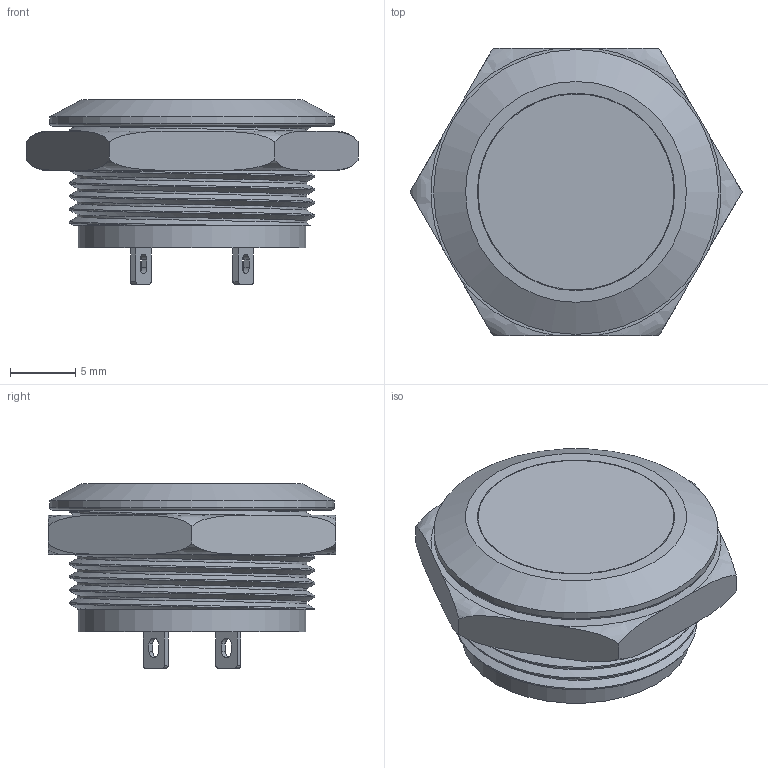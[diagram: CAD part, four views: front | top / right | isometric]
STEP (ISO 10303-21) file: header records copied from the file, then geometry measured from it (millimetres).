
FILE_DESCRIPTION(/* description */ (''),/* implementation_level */ '2;1');
FILE_NAME(/* name */ 'EJ19-211PM.stp',/* time_stamp */ '2019-11-08T13:54:57+08:00',/* author */ (''),/* organization */ (''),/* preprocessor_version */ 'ST-DEVELOPER v11',/* originating_system */ 'SIEMENS UGS NX 6.0',/* authorisation */ '');
FILE_SCHEMA (('CONFIG_CONTROL_DESIGN'));
Length unit declared in the file: millimetre
Products named in the file (7): JH8.382.028; JH7.740.176; JH7.810.264; JH7.370.462; JH8.382.290; JH8.382.291; EJ19-211PM
Assembly tree (7 placements, depth 2):
  EJ19-211PM
    JH8.382.291
    JH8.382.290
    JH7.370.462
    JH7.810.264
    JH7.740.176  x2
    JH8.382.028
Bounding box: 25.4 x 22 x 14.1 mm (x, y, z)
Volume: 2549.3 mm3; surface area: 4752.1 mm2
Topology: 7 solids, 8 shells, 245 faces, 605 edges, 397 vertices
Faces by surface type: plane 161, cylinder 45, torus 19, extrusion 8, bspline 7, cone 5
Full cylindrical faces by diameter (mm): 2.2 x2, 2.6 x1, 6.2 x1, 10.4 x1, 12.3 x1, 12.4 x1, 15 x2, 15.1 x1, 15.7 x1, 16.6 x1, 16.8 x1, 17.4 x1, 21.8 x1
Entity records: 9314 total; most frequent: CARTESIAN_POINT 3539, ORIENTED_EDGE 1018, DIRECTION 949, EDGE_CURVE 509, VERTEX_POINT 347, AXIS2_PLACEMENT_3D 323, VECTOR 303, LINE 295
